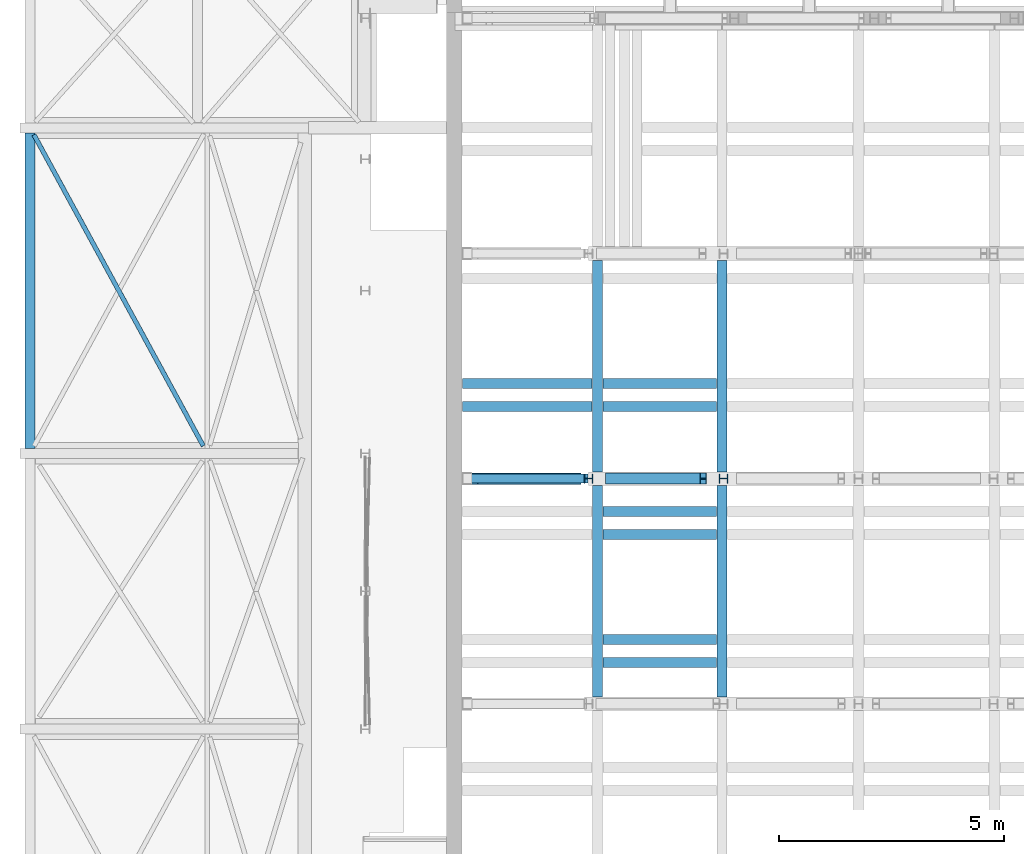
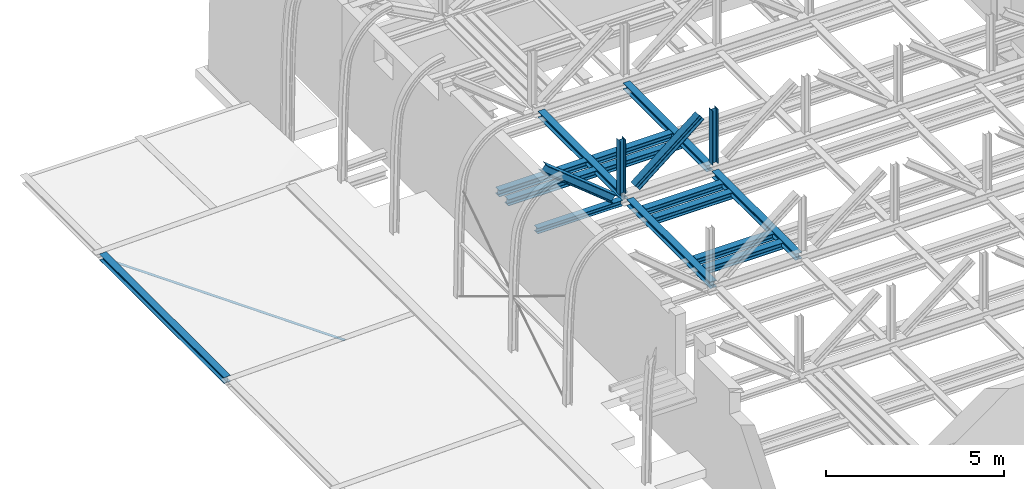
# One storey, part 15 of 29: 19 beams.
"""IFC2X3 building model written with IfcOpenShell, lengths in millimetres."""

from ifc_helpers import new_model, entity, si_unit, converted_unit, derived_unit, direction, frame, frame_2d, origin, place, context, subcontext, project, spatial, polyline, circle_curve, parameter, trimmed, segment, composite_curve, rectangle, i_section, outline, extrude, material, type_object, element, save


model = new_model("IFC2X3")

# Units and contexts
model_context = context("Model", 3, precision=0.01, world=origin(), true_north=direction((6.12303176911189e-17, 1.0)))
body_context = subcontext(model_context, "Body", "Model", "MODEL_VIEW")
ifc_project = project(units=[si_unit("LENGTHUNIT", "METRE", prefix="MILLI"), si_unit("AREAUNIT", "SQUARE_METRE", prefix="MILLI"), si_unit("VOLUMEUNIT", "CUBIC_METRE"), converted_unit("PLANEANGLEUNIT", "DEGREE", entity("IfcRatioMeasure", 0.0174532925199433), si_unit("PLANEANGLEUNIT", "RADIAN"), dimensions=[0, 0, 0, 0, 0, 0, 0]), si_unit("MASSUNIT", "GRAM", prefix="KILO"), derived_unit("MASSDENSITYUNIT", [(si_unit("MASSUNIT", "GRAM", prefix="KILO"), 1), (si_unit("LENGTHUNIT", "METRE"), -3)]), derived_unit("MOMENTOFINERTIAUNIT", [(si_unit("LENGTHUNIT", "METRE"), 4)]), si_unit("TIMEUNIT", "SECOND"), si_unit("FREQUENCYUNIT", "HERTZ"), si_unit("THERMODYNAMICTEMPERATUREUNIT", "DEGREE_CELSIUS"), derived_unit("THERMALTRANSMITTANCEUNIT", [(si_unit("MASSUNIT", "GRAM", prefix="KILO"), 1), (si_unit("THERMODYNAMICTEMPERATUREUNIT", "KELVIN"), -1), (si_unit("TIMEUNIT", "SECOND"), -3)]), derived_unit("VOLUMETRICFLOWRATEUNIT", [(si_unit("LENGTHUNIT", "METRE"), 3), (si_unit("TIMEUNIT", "SECOND"), -1)]), si_unit("ELECTRICCURRENTUNIT", "AMPERE"), si_unit("ELECTRICVOLTAGEUNIT", "VOLT"), si_unit("POWERUNIT", "WATT"), si_unit("FORCEUNIT", "NEWTON", prefix="KILO"), si_unit("ILLUMINANCEUNIT", "LUX"), si_unit("LUMINOUSFLUXUNIT", "LUMEN"), si_unit("LUMINOUSINTENSITYUNIT", "CANDELA"), derived_unit("USERDEFINED", [(si_unit("MASSUNIT", "GRAM", prefix="KILO"), -1), (si_unit("LENGTHUNIT", "METRE"), -2), (si_unit("TIMEUNIT", "SECOND"), 3), (si_unit("LUMINOUSFLUXUNIT", "LUMEN"), 1)]), derived_unit("LINEARVELOCITYUNIT", [(si_unit("LENGTHUNIT", "METRE"), 1), (si_unit("TIMEUNIT", "SECOND"), -1)]), si_unit("PRESSUREUNIT", "PASCAL"), derived_unit("USERDEFINED", [(si_unit("LENGTHUNIT", "METRE"), -2), (si_unit("MASSUNIT", "GRAM", prefix="KILO"), 1), (si_unit("TIMEUNIT", "SECOND"), -2)]), derived_unit("LINEARFORCEUNIT", [(si_unit("MASSUNIT", "GRAM", prefix="KILO"), 1), (si_unit("LENGTHUNIT", "METRE"), 1), (si_unit("TIMEUNIT", "SECOND"), -2), (si_unit("LENGTHUNIT", "METRE"), -1)]), derived_unit("PLANARFORCEUNIT", [(si_unit("MASSUNIT", "GRAM", prefix="KILO"), 1), (si_unit("LENGTHUNIT", "METRE"), 1), (si_unit("TIMEUNIT", "SECOND"), -2), (si_unit("LENGTHUNIT", "METRE"), -2)])], contexts=[model_context])

# Site, building, storey
site_placement = place(None, origin())
site = spatial("IfcSite", under=ifc_project, at=site_placement, Name="Theater aan de Parade", CompositionType="ELEMENT")
building_placement = place(site_placement, origin())
building = spatial("IfcBuilding", under=site, at=building_placement, Name="Theater aan de Parade", CompositionType="ELEMENT")
storey_placement = place(building_placement, frame((0.0, 0.0, 20300.0)))
storey = spatial("IfcBuildingStorey", under=building, at=storey_placement, Name="05 vijfde verdieping", CompositionType="ELEMENT", Elevation=20300.0)

# Beams
ifc_material_1 = material(Name="00_PBT_MAT_staal_S355")
beam_type_1 = type_object("IfcBeamType", Name="28_PBT_SF_staal_H-profiel:S355_HE220B", PredefinedType="NOTDEFINED")
beam_1_placement = place(storey_placement, frame((73483.3589914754, 30060.0, 0.0), z_axis=(0.0, 0.0, 1.0), x_axis=(0.0, 1.0, 0.0)))
element("IfcBeam", 1, at=beam_1_placement, inside=storey, type_object=beam_type_1, material=ifc_material_1, Name="28_PBT_SF_staal_H-profiel:S355_HE220B", ObjectType="28_PBT_SF_staal_H-profiel:S355_HE220B", context=body_context, shape_type="SweptSolid", body=[
    extrude(outline(composite_curve([segment(polyline([(94.0, -110.0), (110.0, -110.0)]), True, "CONTINUOUS"), segment(polyline([(110.0, -110.0), (110.0, 110.0)]), True, "CONTINUOUS"), segment(polyline([(110.0, 110.0), (94.0, 110.0)]), True, "CONTINUOUS"), segment(polyline([(94.0, 110.0), (94.0, 22.7499999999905)]), True, "CONTINUOUS"), segment(trimmed(circle_curve(frame_2d((76.0, 22.7499999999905), x_axis=(1.0, 0.0)), 17.9999999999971), [parameter(269.999999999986)], [parameter(0.0)], True, "PARAMETER"), False, "CONTINUOUS"), segment(polyline([(76.0, 4.74999999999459), (-76.0, 4.74999999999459)]), True, "CONTINUOUS"), segment(trimmed(circle_curve(frame_2d((-76.0, 22.7499999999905), x_axis=(0.0, -1.0)), 17.9999999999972), [parameter(269.999999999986)], [parameter(0.0)], True, "PARAMETER"), False, "CONTINUOUS"), segment(polyline([(-94.0, 22.7499999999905), (-94.0, 110.0)]), True, "CONTINUOUS"), segment(polyline([(-94.0, 110.0), (-110.0, 110.0)]), True, "CONTINUOUS"), segment(polyline([(-110.0, 110.0), (-110.0, -110.0)]), True, "CONTINUOUS"), segment(polyline([(-110.0, -110.0), (-94.0, -110.0)]), True, "CONTINUOUS"), segment(polyline([(-94.0, -110.0), (-94.0, -22.7500000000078)]), True, "CONTINUOUS"), segment(trimmed(circle_curve(frame_2d((-76.0, -22.7500000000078), x_axis=(-1.0, 0.0)), 17.9999999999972), [parameter(269.999999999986)], [parameter(0.0)], True, "PARAMETER"), False, "CONTINUOUS"), segment(polyline([(-76.0, -4.75000000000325), (76.0, -4.75000000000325)]), True, "CONTINUOUS"), segment(trimmed(circle_curve(frame_2d((76.0, -22.7500000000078), x_axis=(0.0, 1.0)), 17.9999999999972), [parameter(269.999999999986)], [parameter(0.0)], True, "PARAMETER"), False, "CONTINUOUS"), segment(polyline([(94.0, -22.7500000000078), (94.0, -110.0)]), True, "CONTINUOUS")], self_intersect=False)), frame((0.0, 0.0, 2360.0), z_axis=(1.0, 0.0, 0.0), x_axis=(0.0, 0.0, -1.0)), (0.0, 0.0, 1.0), 4700.00000000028),
])
beam_2_placement = place(storey_placement, frame((73483.3589914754, 39760.0, 0.0), z_axis=(0.0, 0.0, 1.0), x_axis=(0.0, -1.0, 0.0)))
element("IfcBeam", 2, at=beam_2_placement, inside=storey, type_object=beam_type_1, material=ifc_material_1, Name="28_PBT_SF_staal_H-profiel:S355_HE220B", ObjectType="28_PBT_SF_staal_H-profiel:S355_HE220B", context=body_context, shape_type="SweptSolid", body=[
    extrude(i_section(OverallWidth=220.000000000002, OverallDepth=220.000000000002, WebThickness=9.49999999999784, FlangeThickness=15.9999999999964, FilletRadius=17.9999999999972, at=frame_2d((-4.33431068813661e-12, 1.73230318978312e-11), x_axis=(0.0, 1.0))), frame((0.0, 0.0, 2360.0), z_axis=(1.0, 0.0, 0.0), x_axis=(0.0, 0.0, -1.0)), (0.0, 0.0, 1.0), 4700.00000000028),
])
beam_3_placement = place(storey_placement, frame((70715.0, 30060.0, 0.0), z_axis=(0.0, 0.0, 1.0), x_axis=(0.0, 1.0, 0.0)))
element("IfcBeam", 3, at=beam_3_placement, inside=storey, type_object=beam_type_1, material=ifc_material_1, Name="28_PBT_SF_staal_H-profiel:S355_HE220B", ObjectType="28_PBT_SF_staal_H-profiel:S355_HE220B", context=body_context, shape_type="SweptSolid", body=[
    extrude(outline(composite_curve([segment(polyline([(94.0, -110.0), (110.0, -110.0)]), True, "CONTINUOUS"), segment(polyline([(110.0, -110.0), (110.0, 110.0)]), True, "CONTINUOUS"), segment(polyline([(110.0, 110.0), (94.0, 110.0)]), True, "CONTINUOUS"), segment(polyline([(94.0, 110.0), (94.0, 22.7500000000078)]), True, "CONTINUOUS"), segment(trimmed(circle_curve(frame_2d((76.0, 22.7500000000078), x_axis=(1.0, 0.0)), 17.9999999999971), [parameter(269.999999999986)], [parameter(0.0)], True, "PARAMETER"), False, "CONTINUOUS"), segment(polyline([(76.0, 4.75000000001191), (-76.0, 4.75000000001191)]), True, "CONTINUOUS"), segment(trimmed(circle_curve(frame_2d((-76.0, 22.7500000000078), x_axis=(0.0, -1.0)), 17.9999999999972), [parameter(269.999999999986)], [parameter(0.0)], True, "PARAMETER"), False, "CONTINUOUS"), segment(polyline([(-94.0, 22.7500000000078), (-94.0, 110.0)]), True, "CONTINUOUS"), segment(polyline([(-94.0, 110.0), (-110.0, 110.0)]), True, "CONTINUOUS"), segment(polyline([(-110.0, 110.0), (-110.0, -110.0)]), True, "CONTINUOUS"), segment(polyline([(-110.0, -110.0), (-94.0, -110.0)]), True, "CONTINUOUS"), segment(polyline([(-94.0, -110.0), (-94.0, -22.7499999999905)]), True, "CONTINUOUS"), segment(trimmed(circle_curve(frame_2d((-76.0, -22.7499999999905), x_axis=(-1.0, 0.0)), 17.9999999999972), [parameter(269.999999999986)], [parameter(0.0)], True, "PARAMETER"), False, "CONTINUOUS"), segment(polyline([(-76.0, -4.74999999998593), (76.0, -4.74999999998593)]), True, "CONTINUOUS"), segment(trimmed(circle_curve(frame_2d((76.0, -22.7499999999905), x_axis=(0.0, 1.0)), 17.9999999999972), [parameter(269.999999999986)], [parameter(0.0)], True, "PARAMETER"), False, "CONTINUOUS"), segment(polyline([(94.0, -22.7499999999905), (94.0, -110.0)]), True, "CONTINUOUS")], self_intersect=False)), frame((0.0, 0.0, 2360.0), z_axis=(1.0, 0.0, 0.0), x_axis=(0.0, 0.0, -1.0)), (0.0, 0.0, 1.0), 4700.00000000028),
])
beam_4_placement = place(storey_placement, frame((70715.0, 39760.0, 0.0), z_axis=(0.0, 0.0, 1.0), x_axis=(0.0, -1.0, 0.0)))
element("IfcBeam", 4, at=beam_4_placement, inside=storey, type_object=beam_type_1, material=ifc_material_1, Name="28_PBT_SF_staal_H-profiel:S355_HE220B", ObjectType="28_PBT_SF_staal_H-profiel:S355_HE220B", context=body_context, shape_type="SweptSolid", body=[
    extrude(i_section(OverallWidth=220.000000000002, OverallDepth=220.000000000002, WebThickness=9.49999999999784, FlangeThickness=15.9999999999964, FilletRadius=17.9999999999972, at=frame_2d((-4.33431068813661e-12, 8.66862137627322e-12), x_axis=(0.0, 1.0))), frame((0.0, 0.0, 2360.0), z_axis=(1.0, 0.0, 0.0), x_axis=(0.0, 0.0, -1.0)), (0.0, 0.0, 1.0), 4700.00000000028),
])
beam_5_placement = place(storey_placement, frame((70715.0, 37026.5, 0.0), z_axis=(0.0, 0.0, 1.0), x_axis=(-1.0, 0.0, 0.0)))
element("IfcBeam", 5, at=beam_5_placement, inside=storey, type_object=beam_type_1, material=ifc_material_1, Name="28_PBT_SF_staal_H-profiel:S355_HE220B", ObjectType="28_PBT_SF_staal_H-profiel:S355_HE220B", context=body_context, shape_type="SweptSolid", body=[
    extrude(outline(composite_curve([segment(polyline([(94.0, -110.0), (110.0, -110.0)]), True, "CONTINUOUS"), segment(polyline([(110.0, -110.0), (110.0, 110.0)]), True, "CONTINUOUS"), segment(polyline([(110.0, 110.0), (94.0, 110.0)]), True, "CONTINUOUS"), segment(polyline([(94.0, 110.0), (94.0, 22.7500000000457)]), True, "CONTINUOUS"), segment(trimmed(circle_curve(frame_2d((76.0, 22.750000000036), x_axis=(1.0, 0.0)), 18.0000000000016), [parameter(270.0)], [parameter(0.0)], True, "PARAMETER"), False, "CONTINUOUS"), segment(polyline([(76.0, 4.7500000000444), (-76.0, 4.74999999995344)]), True, "CONTINUOUS"), segment(trimmed(circle_curve(frame_2d((-76.0, 22.7499999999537), x_axis=(0.0, -1.0)), 18.0000000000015), [parameter(270.0)], [parameter(0.0)], True, "PARAMETER"), False, "CONTINUOUS"), segment(polyline([(-94.0, 22.7499999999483), (-94.0, 110.0)]), True, "CONTINUOUS"), segment(polyline([(-94.0, 110.0), (-110.0, 110.0)]), True, "CONTINUOUS"), segment(polyline([(-110.0, 110.0), (-110.0, -110.0)]), True, "CONTINUOUS"), segment(polyline([(-110.0, -110.0), (-94.0, -110.0)]), True, "CONTINUOUS"), segment(polyline([(-94.0, -110.0), (-94.0, -22.7500000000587)]), True, "CONTINUOUS"), segment(trimmed(circle_curve(frame_2d((-76.0, -22.750000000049), x_axis=(-1.0, 0.0)), 17.9999999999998), [parameter(270.0)], [parameter(0.0)], True, "PARAMETER"), False, "CONTINUOUS"), segment(polyline([(-76.0, -4.75000000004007), (76.0, -4.74999999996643)]), True, "CONTINUOUS"), segment(trimmed(circle_curve(frame_2d((76.0, -22.7499999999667), x_axis=(0.0, 1.0)), 18.0000000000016), [parameter(270.0)], [parameter(0.0)], True, "PARAMETER"), False, "CONTINUOUS"), segment(polyline([(94.0, -22.7499999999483), (94.0, -110.0)]), True, "CONTINUOUS")], self_intersect=False)), frame((122.699999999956, 0.0, 2360.0), z_axis=(1.0, 0.0, 0.0), x_axis=(0.0, 0.0, -1.0)), (0.0, 0.0, 1.0), 2873.34389903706),
])
beam_6_placement = place(storey_placement, frame((73483.3589914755, 37026.5, 0.0), z_axis=(0.0, 0.0, 1.0), x_axis=(-1.0, 0.0, 0.0)))
element("IfcBeam", 6, at=beam_6_placement, inside=storey, type_object=beam_type_1, material=ifc_material_1, Name="28_PBT_SF_staal_H-profiel:S355_HE220B", ObjectType="28_PBT_SF_staal_H-profiel:S355_HE220B", context=body_context, shape_type="SweptSolid", body=[
    extrude(outline(composite_curve([segment(polyline([(94.0, -110.0), (110.0, -110.0)]), True, "CONTINUOUS"), segment(polyline([(110.0, -110.0), (110.0, 110.0)]), True, "CONTINUOUS"), segment(polyline([(110.0, 110.0), (94.0, 110.0)]), True, "CONTINUOUS"), segment(polyline([(94.0, 110.0), (94.0, 22.7500000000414)]), True, "CONTINUOUS"), segment(trimmed(circle_curve(frame_2d((76.0, 22.7500000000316), x_axis=(1.0, 0.0)), 18.0000000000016), [parameter(270.0)], [parameter(0.0)], True, "PARAMETER"), False, "CONTINUOUS"), segment(polyline([(76.0, 4.75000000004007), (-76.0, 4.74999999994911)]), True, "CONTINUOUS"), segment(trimmed(circle_curve(frame_2d((-76.0, 22.7499999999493), x_axis=(0.0, -1.0)), 18.0000000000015), [parameter(270.0)], [parameter(0.0)], True, "PARAMETER"), False, "CONTINUOUS"), segment(polyline([(-94.0, 22.7499999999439), (-94.0, 110.0)]), True, "CONTINUOUS"), segment(polyline([(-94.0, 110.0), (-110.0, 110.0)]), True, "CONTINUOUS"), segment(polyline([(-110.0, 110.0), (-110.0, -110.0)]), True, "CONTINUOUS"), segment(polyline([(-110.0, -110.0), (-94.0, -110.0)]), True, "CONTINUOUS"), segment(polyline([(-94.0, -110.0), (-94.0, -22.7500000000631)]), True, "CONTINUOUS"), segment(trimmed(circle_curve(frame_2d((-76.0, -22.7500000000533), x_axis=(-1.0, 0.0)), 17.9999999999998), [parameter(270.0)], [parameter(0.0)], True, "PARAMETER"), False, "CONTINUOUS"), segment(polyline([(-76.0, -4.7500000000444), (76.0, -4.74999999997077)]), True, "CONTINUOUS"), segment(trimmed(circle_curve(frame_2d((76.0, -22.749999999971), x_axis=(0.0, 1.0)), 18.0000000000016), [parameter(270.0)], [parameter(0.0)], True, "PARAMETER"), False, "CONTINUOUS"), segment(polyline([(94.0, -22.7499999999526), (94.0, -110.0)]), True, "CONTINUOUS")], self_intersect=False)), frame((122.700000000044, 0.0, 2360.0), z_axis=(1.0, 0.0, 0.0), x_axis=(0.0, 0.0, -1.0)), (0.0, 0.0, 1.0), 2522.95899147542),
])
beam_7_placement = place(storey_placement, frame((70715.0, 36512.4998, 0.0), z_axis=(0.0, 0.0, 1.0), x_axis=(-1.0, 0.0, 0.0)))
element("IfcBeam", 7, at=beam_7_placement, inside=storey, type_object=beam_type_1, material=ifc_material_1, Name="28_PBT_SF_staal_H-profiel:S355_HE220B", ObjectType="28_PBT_SF_staal_H-profiel:S355_HE220B", context=body_context, shape_type="SweptSolid", body=[
    extrude(outline(composite_curve([segment(polyline([(94.0, -110.0), (110.0, -110.0)]), True, "CONTINUOUS"), segment(polyline([(110.0, -110.0), (110.0, 110.0)]), True, "CONTINUOUS"), segment(polyline([(110.0, 110.0), (94.0, 110.0)]), True, "CONTINUOUS"), segment(polyline([(94.0, 110.0), (94.0, 22.7500000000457)]), True, "CONTINUOUS"), segment(trimmed(circle_curve(frame_2d((76.0, 22.750000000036), x_axis=(1.0, 0.0)), 18.0000000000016), [parameter(270.0)], [parameter(0.0)], True, "PARAMETER"), False, "CONTINUOUS"), segment(polyline([(76.0, 4.7500000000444), (-76.0, 4.74999999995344)]), True, "CONTINUOUS"), segment(trimmed(circle_curve(frame_2d((-76.0, 22.7499999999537), x_axis=(0.0, -1.0)), 18.0000000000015), [parameter(270.0)], [parameter(0.0)], True, "PARAMETER"), False, "CONTINUOUS"), segment(polyline([(-94.0, 22.7499999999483), (-94.0, 110.0)]), True, "CONTINUOUS"), segment(polyline([(-94.0, 110.0), (-110.0, 110.0)]), True, "CONTINUOUS"), segment(polyline([(-110.0, 110.0), (-110.0, -110.0)]), True, "CONTINUOUS"), segment(polyline([(-110.0, -110.0), (-94.0, -110.0)]), True, "CONTINUOUS"), segment(polyline([(-94.0, -110.0), (-94.0, -22.7500000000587)]), True, "CONTINUOUS"), segment(trimmed(circle_curve(frame_2d((-76.0, -22.750000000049), x_axis=(-1.0, 0.0)), 17.9999999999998), [parameter(270.0)], [parameter(0.0)], True, "PARAMETER"), False, "CONTINUOUS"), segment(polyline([(-76.0, -4.75000000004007), (76.0, -4.74999999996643)]), True, "CONTINUOUS"), segment(trimmed(circle_curve(frame_2d((76.0, -22.7499999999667), x_axis=(0.0, 1.0)), 18.0000000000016), [parameter(270.0)], [parameter(0.0)], True, "PARAMETER"), False, "CONTINUOUS"), segment(polyline([(94.0, -22.7499999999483), (94.0, -110.0)]), True, "CONTINUOUS")], self_intersect=False)), frame((122.699999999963, 0.0, 2360.0), z_axis=(1.0, 0.0, 0.0), x_axis=(0.0, 0.0, -1.0)), (0.0, 0.0, 1.0), 2873.34389903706),
])
beam_8_placement = place(storey_placement, frame((73483.3589914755, 36512.4998, 0.0), z_axis=(0.0, 0.0, 1.0), x_axis=(-1.0, 0.0, 0.0)))
element("IfcBeam", 8, at=beam_8_placement, inside=storey, type_object=beam_type_1, material=ifc_material_1, Name="28_PBT_SF_staal_H-profiel:S355_HE220B", ObjectType="28_PBT_SF_staal_H-profiel:S355_HE220B", context=body_context, shape_type="SweptSolid", body=[
    extrude(outline(composite_curve([segment(polyline([(94.0, -110.0), (110.0, -110.0)]), True, "CONTINUOUS"), segment(polyline([(110.0, -110.0), (110.0, 110.0)]), True, "CONTINUOUS"), segment(polyline([(110.0, 110.0), (94.0, 110.0)]), True, "CONTINUOUS"), segment(polyline([(94.0, 110.0), (94.0, 22.7500000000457)]), True, "CONTINUOUS"), segment(trimmed(circle_curve(frame_2d((76.0, 22.750000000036), x_axis=(1.0, 0.0)), 18.0000000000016), [parameter(270.0)], [parameter(0.0)], True, "PARAMETER"), False, "CONTINUOUS"), segment(polyline([(76.0, 4.7500000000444), (-76.0, 4.74999999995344)]), True, "CONTINUOUS"), segment(trimmed(circle_curve(frame_2d((-76.0, 22.7499999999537), x_axis=(0.0, -1.0)), 18.0000000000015), [parameter(270.0)], [parameter(0.0)], True, "PARAMETER"), False, "CONTINUOUS"), segment(polyline([(-94.0, 22.7499999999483), (-94.0, 110.0)]), True, "CONTINUOUS"), segment(polyline([(-94.0, 110.0), (-110.0, 110.0)]), True, "CONTINUOUS"), segment(polyline([(-110.0, 110.0), (-110.0, -110.0)]), True, "CONTINUOUS"), segment(polyline([(-110.0, -110.0), (-94.0, -110.0)]), True, "CONTINUOUS"), segment(polyline([(-94.0, -110.0), (-94.0, -22.7500000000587)]), True, "CONTINUOUS"), segment(trimmed(circle_curve(frame_2d((-76.0, -22.750000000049), x_axis=(-1.0, 0.0)), 17.9999999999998), [parameter(270.0)], [parameter(0.0)], True, "PARAMETER"), False, "CONTINUOUS"), segment(polyline([(-76.0, -4.75000000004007), (76.0, -4.74999999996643)]), True, "CONTINUOUS"), segment(trimmed(circle_curve(frame_2d((76.0, -22.7499999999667), x_axis=(0.0, 1.0)), 18.0000000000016), [parameter(270.0)], [parameter(0.0)], True, "PARAMETER"), False, "CONTINUOUS"), segment(polyline([(94.0, -22.7499999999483), (94.0, -110.0)]), True, "CONTINUOUS")], self_intersect=False)), frame((122.700000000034, 0.0, 2360.0), z_axis=(1.0, 0.0, 0.0), x_axis=(0.0, 0.0, -1.0)), (0.0, 0.0, 1.0), 2522.95899147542),
])
beam_9_placement = place(storey_placement, frame((73483.3589914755, 34183.5, 0.0), z_axis=(0.0, 0.0, 1.0), x_axis=(-1.0, 0.0, 0.0)))
element("IfcBeam", 9, at=beam_9_placement, inside=storey, type_object=beam_type_1, material=ifc_material_1, Name="28_PBT_SF_staal_H-profiel:S355_HE220B", ObjectType="28_PBT_SF_staal_H-profiel:S355_HE220B", context=body_context, shape_type="SweptSolid", body=[
    extrude(outline(composite_curve([segment(polyline([(94.0, -110.0), (110.0, -110.0)]), True, "CONTINUOUS"), segment(polyline([(110.0, -110.0), (110.0, 110.0)]), True, "CONTINUOUS"), segment(polyline([(110.0, 110.0), (94.0, 110.0)]), True, "CONTINUOUS"), segment(polyline([(94.0, 110.0), (94.0, 22.7500000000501)]), True, "CONTINUOUS"), segment(trimmed(circle_curve(frame_2d((76.0, 22.7500000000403), x_axis=(1.0, 0.0)), 18.0000000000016), [parameter(270.0)], [parameter(0.0)], True, "PARAMETER"), False, "CONTINUOUS"), segment(polyline([(76.0, 4.75000000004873), (-76.0, 4.74999999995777)]), True, "CONTINUOUS"), segment(trimmed(circle_curve(frame_2d((-76.0, 22.749999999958), x_axis=(0.0, -1.0)), 18.0000000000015), [parameter(270.0)], [parameter(0.0)], True, "PARAMETER"), False, "CONTINUOUS"), segment(polyline([(-94.0, 22.7499999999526), (-94.0, 110.0)]), True, "CONTINUOUS"), segment(polyline([(-94.0, 110.0), (-110.0, 110.0)]), True, "CONTINUOUS"), segment(polyline([(-110.0, 110.0), (-110.0, -110.0)]), True, "CONTINUOUS"), segment(polyline([(-110.0, -110.0), (-94.0, -110.0)]), True, "CONTINUOUS"), segment(polyline([(-94.0, -110.0), (-94.0, -22.7500000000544)]), True, "CONTINUOUS"), segment(trimmed(circle_curve(frame_2d((-76.0, -22.7500000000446), x_axis=(-1.0, 0.0)), 17.9999999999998), [parameter(270.0)], [parameter(0.0)], True, "PARAMETER"), False, "CONTINUOUS"), segment(polyline([(-76.0, -4.75000000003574), (76.0, -4.7499999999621)]), True, "CONTINUOUS"), segment(trimmed(circle_curve(frame_2d((76.0, -22.7499999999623), x_axis=(0.0, 1.0)), 18.0000000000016), [parameter(270.0)], [parameter(0.0)], True, "PARAMETER"), False, "CONTINUOUS"), segment(polyline([(94.0, -22.7499999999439), (94.0, -110.0)]), True, "CONTINUOUS")], self_intersect=False)), frame((122.700000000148, 0.0, 2360.0), z_axis=(1.0, 0.0, 0.0), x_axis=(0.0, 0.0, -1.0)), (0.0, 0.0, 1.0), 2522.95899147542),
])
beam_10_placement = place(storey_placement, frame((73483.3589914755, 33669.4998, 0.0), z_axis=(0.0, 0.0, 1.0), x_axis=(-1.0, 0.0, 0.0)))
element("IfcBeam", 10, at=beam_10_placement, inside=storey, type_object=beam_type_1, material=ifc_material_1, Name="28_PBT_SF_staal_H-profiel:S355_HE220B", ObjectType="28_PBT_SF_staal_H-profiel:S355_HE220B", context=body_context, shape_type="SweptSolid", body=[
    extrude(outline(composite_curve([segment(polyline([(94.0, -110.0), (110.0, -110.0)]), True, "CONTINUOUS"), segment(polyline([(110.0, -110.0), (110.0, 110.0)]), True, "CONTINUOUS"), segment(polyline([(110.0, 110.0), (94.0, 110.0)]), True, "CONTINUOUS"), segment(polyline([(94.0, 110.0), (94.0, 22.7500000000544)]), True, "CONTINUOUS"), segment(trimmed(circle_curve(frame_2d((76.0, 22.7500000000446), x_axis=(1.0, 0.0)), 18.0000000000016), [parameter(270.0)], [parameter(0.0)], True, "PARAMETER"), False, "CONTINUOUS"), segment(polyline([(76.0, 4.75000000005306), (-76.0, 4.7499999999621)]), True, "CONTINUOUS"), segment(trimmed(circle_curve(frame_2d((-76.0, 22.7499999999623), x_axis=(0.0, -1.0)), 18.0000000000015), [parameter(270.0)], [parameter(0.0)], True, "PARAMETER"), False, "CONTINUOUS"), segment(polyline([(-94.0, 22.7499999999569), (-94.0, 110.0)]), True, "CONTINUOUS"), segment(polyline([(-94.0, 110.0), (-110.0, 110.0)]), True, "CONTINUOUS"), segment(polyline([(-110.0, 110.0), (-110.0, -110.0)]), True, "CONTINUOUS"), segment(polyline([(-110.0, -110.0), (-94.0, -110.0)]), True, "CONTINUOUS"), segment(polyline([(-94.0, -110.0), (-94.0, -22.7500000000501)]), True, "CONTINUOUS"), segment(trimmed(circle_curve(frame_2d((-76.0, -22.7500000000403), x_axis=(-1.0, 0.0)), 17.9999999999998), [parameter(270.0)], [parameter(0.0)], True, "PARAMETER"), False, "CONTINUOUS"), segment(polyline([(-76.0, -4.75000000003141), (76.0, -4.74999999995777)]), True, "CONTINUOUS"), segment(trimmed(circle_curve(frame_2d((76.0, -22.749999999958), x_axis=(0.0, 1.0)), 18.0000000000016), [parameter(270.0)], [parameter(0.0)], True, "PARAMETER"), False, "CONTINUOUS"), segment(polyline([(94.0, -22.7499999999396), (94.0, -110.0)]), True, "CONTINUOUS")], self_intersect=False)), frame((122.700000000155, 0.0, 2360.0), z_axis=(1.0, 0.0, 0.0), x_axis=(0.0, 0.0, -1.0)), (0.0, 0.0, 1.0), 2522.95899147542),
])
beam_11_placement = place(storey_placement, frame((73483.3589914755, 31340.5, 0.0), z_axis=(0.0, 0.0, 1.0), x_axis=(-1.0, 0.0, 0.0)))
element("IfcBeam", 11, at=beam_11_placement, inside=storey, type_object=beam_type_1, material=ifc_material_1, Name="28_PBT_SF_staal_H-profiel:S355_HE220B", ObjectType="28_PBT_SF_staal_H-profiel:S355_HE220B", context=body_context, shape_type="SweptSolid", body=[
    extrude(outline(composite_curve([segment(polyline([(94.0, -110.0), (110.0, -110.0)]), True, "CONTINUOUS"), segment(polyline([(110.0, -110.0), (110.0, 110.0)]), True, "CONTINUOUS"), segment(polyline([(110.0, 110.0), (94.0, 110.0)]), True, "CONTINUOUS"), segment(polyline([(94.0, 110.0), (94.0, 22.7500000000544)]), True, "CONTINUOUS"), segment(trimmed(circle_curve(frame_2d((76.0, 22.7500000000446), x_axis=(1.0, 0.0)), 18.0000000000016), [parameter(270.0)], [parameter(0.0)], True, "PARAMETER"), False, "CONTINUOUS"), segment(polyline([(76.0, 4.75000000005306), (-76.0, 4.7499999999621)]), True, "CONTINUOUS"), segment(trimmed(circle_curve(frame_2d((-76.0, 22.7499999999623), x_axis=(0.0, -1.0)), 18.0000000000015), [parameter(270.0)], [parameter(0.0)], True, "PARAMETER"), False, "CONTINUOUS"), segment(polyline([(-94.0, 22.7499999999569), (-94.0, 110.0)]), True, "CONTINUOUS"), segment(polyline([(-94.0, 110.0), (-110.0, 110.0)]), True, "CONTINUOUS"), segment(polyline([(-110.0, 110.0), (-110.0, -110.0)]), True, "CONTINUOUS"), segment(polyline([(-110.0, -110.0), (-94.0, -110.0)]), True, "CONTINUOUS"), segment(polyline([(-94.0, -110.0), (-94.0, -22.7500000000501)]), True, "CONTINUOUS"), segment(trimmed(circle_curve(frame_2d((-76.0, -22.7500000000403), x_axis=(-1.0, 0.0)), 17.9999999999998), [parameter(270.0)], [parameter(0.0)], True, "PARAMETER"), False, "CONTINUOUS"), segment(polyline([(-76.0, -4.75000000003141), (76.0, -4.74999999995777)]), True, "CONTINUOUS"), segment(trimmed(circle_curve(frame_2d((76.0, -22.749999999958), x_axis=(0.0, 1.0)), 18.0000000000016), [parameter(270.0)], [parameter(0.0)], True, "PARAMETER"), False, "CONTINUOUS"), segment(polyline([(94.0, -22.7499999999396), (94.0, -110.0)]), True, "CONTINUOUS")], self_intersect=False)), frame((122.700000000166, 0.0, 2360.0), z_axis=(1.0, 0.0, 0.0), x_axis=(0.0, 0.0, -1.0)), (0.0, 0.0, 1.0), 2522.95899147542),
])
beam_12_placement = place(storey_placement, frame((73483.3589914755, 30826.4998, 0.0), z_axis=(0.0, 0.0, 1.0), x_axis=(-1.0, 0.0, 0.0)))
element("IfcBeam", 12, at=beam_12_placement, inside=storey, type_object=beam_type_1, material=ifc_material_1, Name="28_PBT_SF_staal_H-profiel:S355_HE220B", ObjectType="28_PBT_SF_staal_H-profiel:S355_HE220B", context=body_context, shape_type="SweptSolid", body=[
    extrude(outline(composite_curve([segment(polyline([(94.0, -110.0), (110.0, -110.0)]), True, "CONTINUOUS"), segment(polyline([(110.0, -110.0), (110.0, 110.0)]), True, "CONTINUOUS"), segment(polyline([(110.0, 110.0), (94.0, 110.0)]), True, "CONTINUOUS"), segment(polyline([(94.0, 110.0), (94.0, 22.7500000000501)]), True, "CONTINUOUS"), segment(trimmed(circle_curve(frame_2d((76.0, 22.7500000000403), x_axis=(1.0, 0.0)), 18.0000000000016), [parameter(270.0)], [parameter(0.0)], True, "PARAMETER"), False, "CONTINUOUS"), segment(polyline([(76.0, 4.75000000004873), (-76.0, 4.74999999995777)]), True, "CONTINUOUS"), segment(trimmed(circle_curve(frame_2d((-76.0, 22.749999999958), x_axis=(0.0, -1.0)), 18.0000000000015), [parameter(270.0)], [parameter(0.0)], True, "PARAMETER"), False, "CONTINUOUS"), segment(polyline([(-94.0, 22.7499999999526), (-94.0, 110.0)]), True, "CONTINUOUS"), segment(polyline([(-94.0, 110.0), (-110.0, 110.0)]), True, "CONTINUOUS"), segment(polyline([(-110.0, 110.0), (-110.0, -110.0)]), True, "CONTINUOUS"), segment(polyline([(-110.0, -110.0), (-94.0, -110.0)]), True, "CONTINUOUS"), segment(polyline([(-94.0, -110.0), (-94.0, -22.7500000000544)]), True, "CONTINUOUS"), segment(trimmed(circle_curve(frame_2d((-76.0, -22.7500000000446), x_axis=(-1.0, 0.0)), 17.9999999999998), [parameter(270.0)], [parameter(0.0)], True, "PARAMETER"), False, "CONTINUOUS"), segment(polyline([(-76.0, -4.75000000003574), (76.0, -4.7499999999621)]), True, "CONTINUOUS"), segment(trimmed(circle_curve(frame_2d((76.0, -22.7499999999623), x_axis=(0.0, 1.0)), 18.0000000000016), [parameter(270.0)], [parameter(0.0)], True, "PARAMETER"), False, "CONTINUOUS"), segment(polyline([(94.0, -22.7499999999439), (94.0, -110.0)]), True, "CONTINUOUS")], self_intersect=False)), frame((122.700000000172, 0.0, 2360.0), z_axis=(1.0, 0.0, 0.0), x_axis=(0.0, 0.0, -1.0)), (0.0, 0.0, 1.0), 2522.95899147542),
])
beam_type_2 = type_object("IfcBeamType", Name="28_PBT_SF_staal_H-profiel:S355_HE220A", PredefinedType="NOTDEFINED")
beam_13_placement = place(storey_placement, frame((58114.89761, 35582.499995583, 53.3503559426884), z_axis=(0.0, 0.0, 1.0), x_axis=(0.0, 1.0, 0.0)))
element("IfcBeam", 13, at=beam_13_placement, inside=storey, type_object=beam_type_2, material=ifc_material_1, Name="28_PBT_SF_staal_H-profiel:S355_HE220A", ObjectType="28_PBT_SF_staal_H-profiel:S355_HE220A", context=body_context, shape_type="SweptSolid", body=[
    extrude(i_section(OverallWidth=219.999999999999, OverallDepth=210.0, WebThickness=6.99999999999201, FlangeThickness=10.9999999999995, FilletRadius=18.0000000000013, at=frame_2d((4.44089209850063e-12, -4.220623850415e-12), x_axis=(1.0, 0.0))), frame((0.0, 2.59326393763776, 104.967971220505), z_axis=(1.0, 0.0, 0.0), x_axis=(0.0, -0.999694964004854, 0.0246977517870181)), (0.0, 0.0, 1.0), 7007.50000441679),
])
beam_type_3 = type_object("IfcBeamType", Name="28_PBT_SF_staal_H-profiel:S355_HE200A", PredefinedType="NOTDEFINED")
beam_14_placement = place(storey_placement, frame((67742.4274620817, 34910.0, 2345.0)))
element("IfcBeam", 14, at=beam_14_placement, inside=storey, type_object=beam_type_3, material=ifc_material_1, Name="28_PBT_SF_staal_H-profiel:S355_HE200A", ObjectType="28_PBT_SF_staal_H-profiel:S355_HE200A", context=body_context, shape_type="SweptSolid", body=[
    extrude(i_section(OverallWidth=200.000000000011, OverallDepth=190.0, WebThickness=6.49999999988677, FlangeThickness=9.99999999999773, FilletRadius=18.0000000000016, at=frame_2d((-4.33431068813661e-12, 2.16715534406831e-12), x_axis=(0.0, 1.0))), frame((0.0, 0.0, 0.0), z_axis=(1.0, 0.0, 0.0), x_axis=(0.0, 0.0, -1.0)), (0.0, 0.0, 1.0), 2762.2999993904),
])
beam_15_placement = place(storey_placement, frame((70517.4274620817, 34910.0, 2345.0), z_axis=(1.0, 0.0, 0.0), x_axis=(0.0, 0.0, 1.0)))
element("IfcBeam", 15, at=beam_15_placement, inside=storey, type_object=beam_type_3, material=ifc_material_1, Name="28_PBT_SF_staal_H-profiel:S355_HE200A", ObjectType="28_PBT_SF_staal_H-profiel:S355_HE200A", context=body_context, shape_type="SweptSolid", body=[
    extrude(i_section(OverallWidth=199.999999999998, OverallDepth=190.0, WebThickness=6.50000000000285, FlangeThickness=9.99999999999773, FilletRadius=17.9999999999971, at=frame_2d((-1.29958266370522e-11, 2.16715534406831e-12), x_axis=(0.0, 1.0))), frame((277.699999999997, 0.0, 0.0), z_axis=(1.0, 0.0, 0.0), x_axis=(0.0, 0.0, -1.0)), (0.0, 0.0, 1.0), 1864.6),
])
beam_16_placement = place(storey_placement, frame((73514.8549241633, 34910.0, 2430.0), z_axis=(1.0, 0.0, 0.0), x_axis=(0.0, 0.0, 1.0)))
element("IfcBeam", 16, at=beam_16_placement, inside=storey, type_object=beam_type_3, material=ifc_material_1, Name="28_PBT_SF_staal_H-profiel:S355_HE200A", ObjectType="28_PBT_SF_staal_H-profiel:S355_HE200A", context=body_context, shape_type="SweptSolid", body=[
    extrude(i_section(OverallWidth=199.999999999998, OverallDepth=190.0, WebThickness=6.50000000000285, FlangeThickness=9.99999999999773, FilletRadius=17.9999999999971, at=frame_2d((-4.33431068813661e-12, -1.08286712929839e-11), x_axis=(0.0, 1.0))), frame((192.7, 0.0, 0.0), z_axis=(1.0, 0.0, 0.0), x_axis=(0.0, 0.0, -1.0)), (0.0, 0.0, 1.0), 1864.6),
])
beam_type_4 = type_object("IfcBeamType", Name="28_PBT_SF_staal_H-profiel:S355_HE260B", PredefinedType="NOTDEFINED")
beam_17_placement = place(storey_placement, frame((67520.0, 34910.0, 4762.5), z_axis=(0.627787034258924, 0.0, 0.778385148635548), x_axis=(0.778385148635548, 0.0, -0.627787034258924)))
element("IfcBeam", 17, at=beam_17_placement, inside=storey, type_object=beam_type_4, material=ifc_material_1, Name="28_PBT_SF_staal_H-profiel:S355_HE260B", ObjectType="28_PBT_SF_staal_H-profiel:S355_HE260B", context=body_context, shape_type="SweptSolid", body=[
    extrude(i_section(OverallWidth=259.999999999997, OverallDepth=260.000000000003, WebThickness=10.0000000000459, FlangeThickness=17.4999999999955, FilletRadius=24.0000000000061, at=frame_2d((0.0, -2.17426077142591e-12), x_axis=(0.0, 1.0))), frame((592.020771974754, 0.0, 0.0), z_axis=(1.0, 0.0, 0.0), x_axis=(0.0, 0.0, -1.0)), (0.0, 0.0, 1.0), 2933.59685718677),
])
beam_type_5 = type_object("IfcBeamType", Name="28_PBT_SF_staal_H-profiel:S355_HE240B", PredefinedType="NOTDEFINED")
beam_18_placement = place(storey_placement, frame((70517.4274620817, 34910.0, 2345.0), z_axis=(-0.627787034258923, 0.0, 0.778385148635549), x_axis=(0.778385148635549, 0.0, 0.627787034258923)))
element("IfcBeam", 18, at=beam_18_placement, inside=storey, type_object=beam_type_5, material=ifc_material_1, Name="28_PBT_SF_staal_H-profiel:S355_HE240B", ObjectType="28_PBT_SF_staal_H-profiel:S355_HE240B", context=body_context, shape_type="SweptSolid", body=[
    extrude(i_section(OverallWidth=239.999999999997, OverallDepth=239.999999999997, WebThickness=10.0000000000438, FlangeThickness=17.0000000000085, FilletRadius=21.0000000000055, at=frame_2d((-1.38768996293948e-11, 2.1600499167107e-12), x_axis=(0.0, 1.0))), frame((583.604141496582, 0.0, 0.0), z_axis=(1.0, 0.0, 0.0), x_axis=(0.0, 0.0, -1.0)), (0.0, 0.0, 1.0), 2687.60213509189),
])
ifc_material_2 = material(Name="00_PBT_MAT_staal")
beam_type_6 = type_object("IfcBeamType", Name="28_PBT_SF_staal_strip:strip 100x10", PredefinedType="NOTDEFINED")
beam_19_placement = place(storey_placement, frame((58114.4291315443, 42700.0, 53.3387820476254), z_axis=(-0.00564519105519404, 0.0103724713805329, 0.999930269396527), x_axis=(0.478001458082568, -0.878279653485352, 0.0118091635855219)))
element("IfcBeam", 19, at=beam_19_placement, inside=storey, type_object=beam_type_6, material=ifc_material_2, Name="28_PBT_SF_staal_strip:strip 100x10", ObjectType="28_PBT_SF_staal_strip:strip 100x10", context=body_context, shape_type="SweptSolid", body=[
    extrude(rectangle(XDim=9.9999999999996, YDim=99.9999999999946, at=frame_2d((-9.62785406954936e-12, 2.37898589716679e-12), x_axis=(0.0, 1.0))), frame((174.164699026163, 0.325395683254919, -14.9964701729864), z_axis=(1.0, 0.0, 0.0), x_axis=(0.0, -0.999764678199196, -0.0216930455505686)), (0.0, 0.0, 1.0), 7868.98903804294),
])

save(model, "model.ifc")
